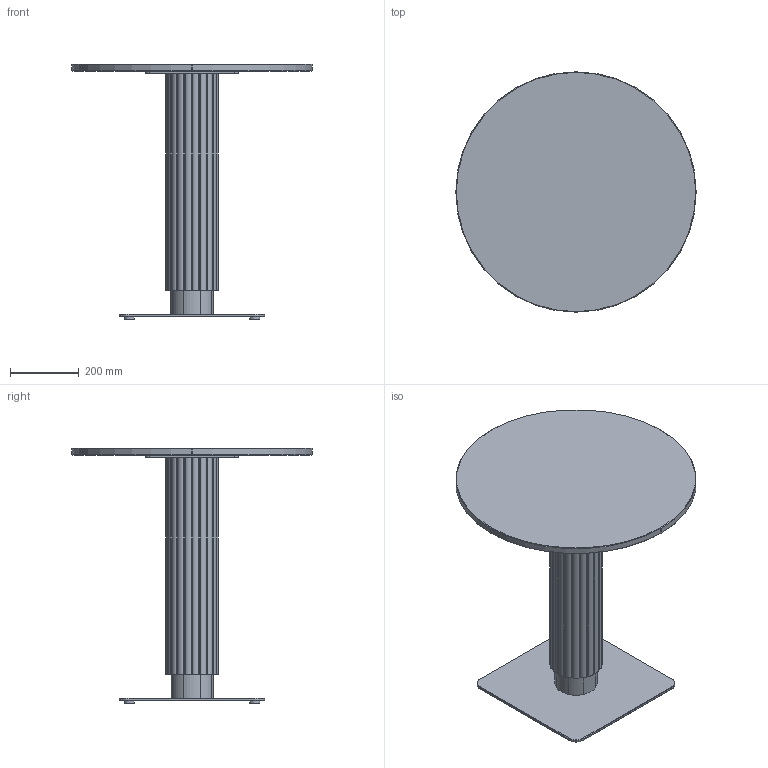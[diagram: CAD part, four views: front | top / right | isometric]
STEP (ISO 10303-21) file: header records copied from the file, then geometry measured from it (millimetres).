
FILE_DESCRIPTION( ('This file contains a STEP AP42 implementation' ,'as created by ZW3D STEP Interface translator.') ,'2;1' );
FILE_NAME( 'God - B_Carré - F1 - M1 - 700 x 700 x 750.stp' ,'24 912. 85752', (''), ('ZWCAD Software Co.'), 'Version 1.0', 'ZW3D to STEP translator', '' );
FILE_SCHEMA(('AUTOMOTIVE_DESIGN { 1 0 10303 214 1 1 1 1 }'));
Length unit declared in the file: millimetre
Products named in the file (15): 0; PIED BISTROT PARAMETRIQUE_; CROIX ACIER 370 V.02_; CRX-X370-02_; SOCLE ACIER L 425x425 V.02_; SCL-R425-02_; PLA-R30A-01_; PLA-R30A-01; COLONNE ACIER Ø48.5 V.02_; TUB-D048-02_; PLA-R48A-01_; Colonne GODRON H700_; WUERTH 0276063020 Euro-screw 6.3x2 Verzinkt_; PLATEAU BISTROT PARAMETRIQUE_; insert_m6_13_
Assembly tree (23 placements, depth 3):
  0
  PIED BISTROT PARAMETRIQUE_
    CROIX ACIER 370 V.02_
      CRX-X370-02_
    SOCLE ACIER L 425x425 V.02_
      SCL-R425-02_
      PLA-R30A-01_
      PLA-R30A-01  x3
    COLONNE ACIER Ø48.5 V.02_
      TUB-D048-02_
      PLA-R48A-01_  x2
    Colonne GODRON H700_
    WUERTH 0276063020 Euro-screw 6.3x2 Verzinkt_
    PLATEAU BISTROT PARAMETRIQUE_
      insert_m6_13_  x8
Bounding box: 700 x 700 x 744 mm (x, y, z)
Volume: 20193730.8 mm3; surface area: 2598559.1 mm2
Topology: 27 solids, 27 shells, 669 faces, 1662 edges, 1062 vertices
Faces by surface type: plane 302, cylinder 192, bspline 121, cone 53, torus 1
Full cylindrical faces by diameter (mm): 4.88 x1, 6 x8, 6.3 x1, 8 x45, 12 x2, 14 x2, 30 x4, 44.5 x3, 48.5 x1
Entity records: 16810 total; most frequent: CARTESIAN_POINT 4133, DIRECTION 2344, ORIENTED_EDGE 2338, EDGE_CURVE 1169, AXIS2_PLACEMENT_3D 829, VERTEX_POINT 756, VECTOR 686, LINE 686
